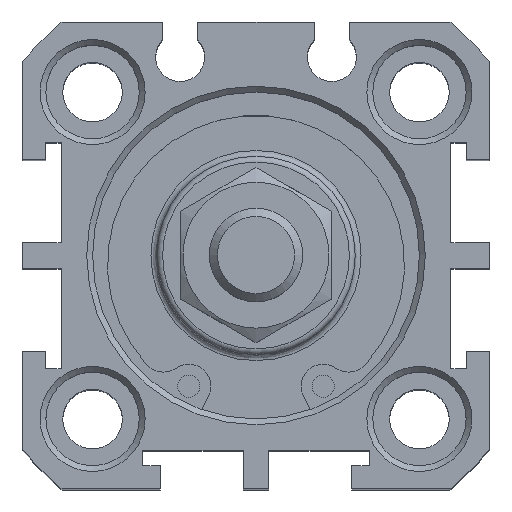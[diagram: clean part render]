
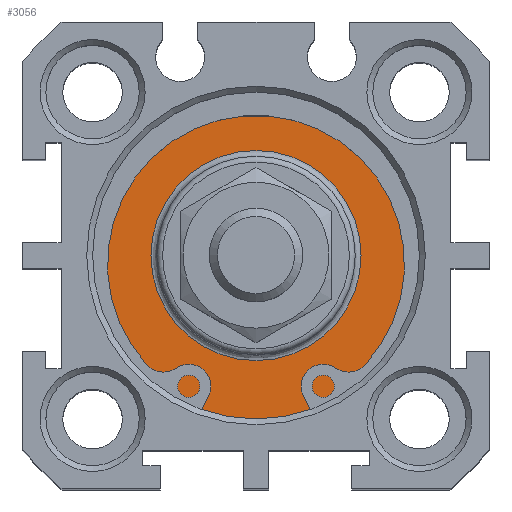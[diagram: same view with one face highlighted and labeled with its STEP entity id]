
A CAD part, top view. The second image highlights one B-rep face of the part: STEP entity #3056.
In plain terms, the highlighted planar face has unit normal (0, 0, 1).
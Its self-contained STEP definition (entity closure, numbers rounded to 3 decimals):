
#3005=CARTESIAN_POINT('',(0.12,10.914,48.3));
#3006=VERTEX_POINT('',#3005);
#3007=CARTESIAN_POINT('',(0.12,1.914,48.3));
#3008=DIRECTION('',(0.0,0.0,1.0));
#3009=DIRECTION('',(0.0,-1.0,0.0));
#3010=AXIS2_PLACEMENT_3D('',#3007,#3008,#3009);
#3011=CIRCLE('',#3010,9.);
#3012=EDGE_CURVE('',#3006,#3006,#3011,.T.);
#3037=CARTESIAN_POINT('',(0.12,13.164,48.3));
#3038=DIRECTION('',(0.0,0.0,1.0));
#3039=DIRECTION('',(1.0,0.0,0.0));
#3040=AXIS2_PLACEMENT_3D('',#3037,#3038,#3039);
#3041=PLANE('',#3040);
#3042=CARTESIAN_POINT('',(0.12,15.914,48.3));
#3043=VERTEX_POINT('',#3042);
#3044=CARTESIAN_POINT('',(0.12,1.914,48.3));
#3045=DIRECTION('',(0.0,0.0,-1.0));
#3046=DIRECTION('',(0.0,1.0,0.0));
#3047=AXIS2_PLACEMENT_3D('',#3044,#3045,#3046);
#3048=CIRCLE('',#3047,14.);
#3049=EDGE_CURVE('',#3043,#3043,#3048,.T.);
#3050=ORIENTED_EDGE('',*,*,#3049,.F.);
#3051=EDGE_LOOP('',(#3050));
#3052=FACE_OUTER_BOUND('',#3051,.T.);
#3053=ORIENTED_EDGE('',*,*,#3012,.F.);
#3054=EDGE_LOOP('',(#3053));
#3055=FACE_BOUND('',#3054,.T.);
#3056=ADVANCED_FACE('',(#3052,#3055),#3041,.T.);
